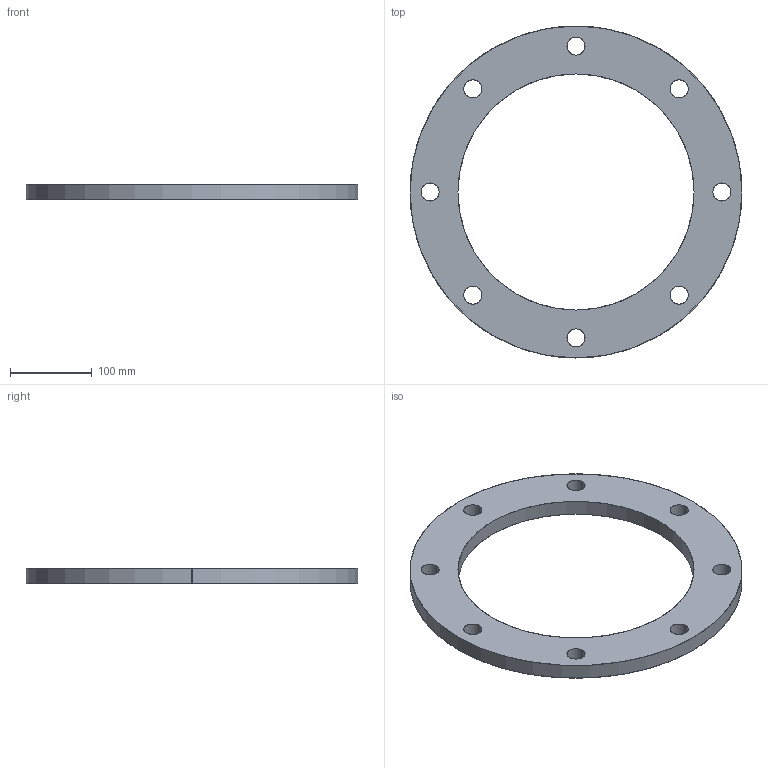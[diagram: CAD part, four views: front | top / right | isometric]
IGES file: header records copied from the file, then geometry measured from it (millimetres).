
Start section: SolidWorks IGES file using analytic representation for surfaces
Global section: file name: \\DOWNSHIFT.fusion-group.net\FR$\hwegrzynska\Desktop\Fusion Plast Australia- drawings\backing rings\AS4087 PN16 - Figure B7 Stainless Backing Rings\BIM\BRD250PN16SS.IGS; native system: SolidWorks 2019; preprocessor: SolidWorks 2019; author: hwegrzynska; date: 210514.131322; units: millimetre
Bounding box: 405 x 405 x 19 mm (x, y, z)
Surface area: 173150.5 mm2 (no closed solid volume)
Topology: 0 solids, 0 shells, 22 faces, 848 edges, 848 vertices
Faces by surface type: revolution 20, bspline 2
